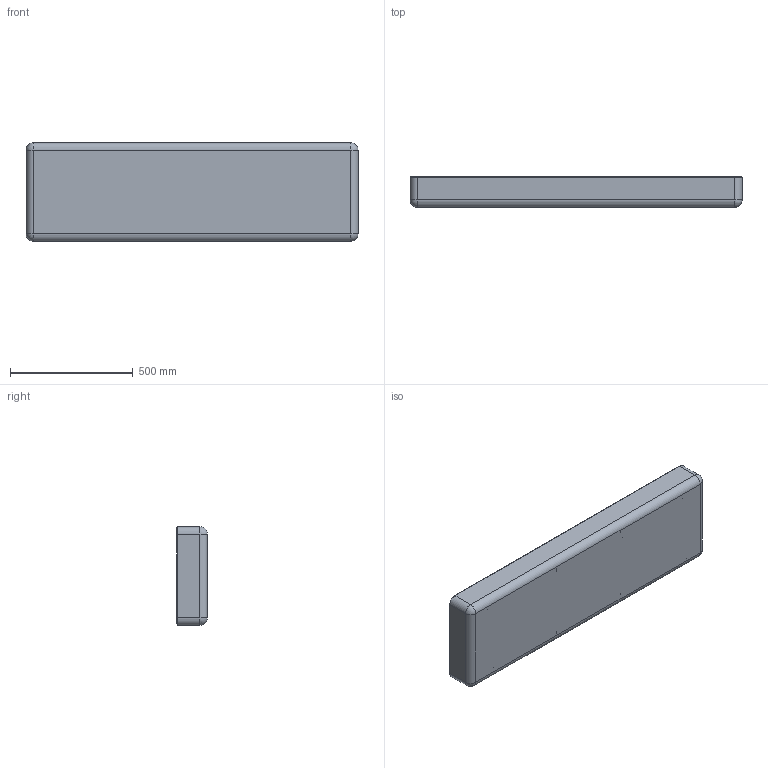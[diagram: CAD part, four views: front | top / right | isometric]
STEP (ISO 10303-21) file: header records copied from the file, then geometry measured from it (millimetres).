
FILE_DESCRIPTION (( 'STEP AP214' ), '1' );
FILE_NAME ('995_Bottom_INNER_SURFACES.STEP', '2015-02-03T16:40:49', ( '' ), ( '' ), 'SwSTEP 2.0', 'SolidWorks 2014', '' );
FILE_SCHEMA (( 'AUTOMOTIVE_DESIGN' ));
Length unit declared in the file: millimetre
Products named in the file (1): 995_Bottom_INNER_SURFACES
Bounding box: 1352.55 x 125.17 x 402.09 mm (x, y, z)
Volume: 12548768.1 mm3; surface area: 1828812.9 mm2
Topology: 1 solids, 1 shells, 1697 faces, 4071 edges, 2250 vertices
Faces by surface type: bspline 959, cylinder 422, plane 184, torus 66, cone 46, sphere 20
Entity records: 96375 total; most frequent: CARTESIAN_POINT 65166, ORIENTED_EDGE 7878, DIRECTION 4800, EDGE_CURVE 3939, VERTEX_POINT 2250, AXIS2_PLACEMENT_3D 1947, EDGE_LOOP 1703, FACE_OUTER_BOUND 1697
